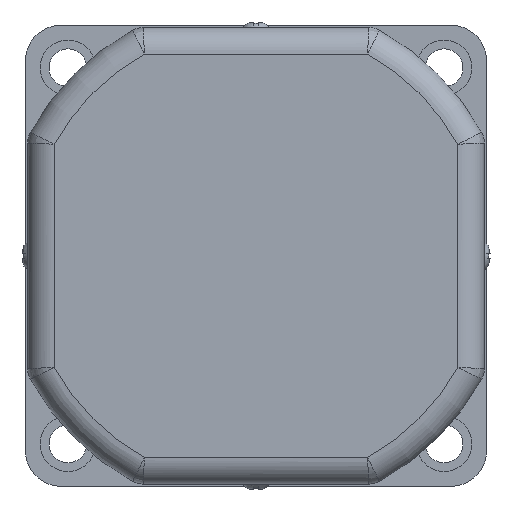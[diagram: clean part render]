
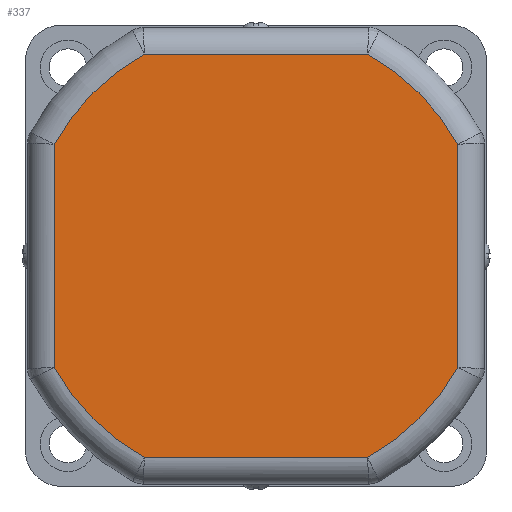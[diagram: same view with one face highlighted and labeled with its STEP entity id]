
A CAD part, left-side view. The second image highlights one B-rep face of the part: STEP entity #337.
In plain terms, the highlighted planar face has unit normal (-1, 0, 0).
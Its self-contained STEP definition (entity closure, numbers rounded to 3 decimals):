
#262=CARTESIAN_POINT('',(-20.,0.,0.));
#263=DIRECTION('',(-1.0,0.0,0.0));
#264=DIRECTION('',(0.0,0.0,1.0));
#265=AXIS2_PLACEMENT_3D('',#262,#263,#264);
#266=PLANE('',#265);
#267=CARTESIAN_POINT('',(-20.,25.174,45.5));
#268=VERTEX_POINT('',#267);
#269=CARTESIAN_POINT('',(-20.,-25.174,45.5));
#270=VERTEX_POINT('',#269);
#271=CARTESIAN_POINT('',(-20.,25.174,45.5));
#272=DIRECTION('',(0.0,-1.0,0.0));
#273=VECTOR('',#272,50.349);
#274=LINE('',#271,#273);
#275=EDGE_CURVE('',#268,#270,#274,.T.);
#276=ORIENTED_EDGE('',*,*,#275,.F.);
#277=CARTESIAN_POINT('',(-20.,45.5,25.174));
#278=VERTEX_POINT('',#277);
#279=CARTESIAN_POINT('',(-20.,0.,0.));
#280=DIRECTION('',(1.0,0.0,0.0));
#281=DIRECTION('',(0.0,0.707,0.707));
#282=AXIS2_PLACEMENT_3D('',#279,#280,#281);
#283=CIRCLE('',#282,52.);
#284=EDGE_CURVE('',#278,#268,#283,.T.);
#285=ORIENTED_EDGE('',*,*,#284,.F.);
#286=CARTESIAN_POINT('',(-20.,45.5,-25.174));
#287=VERTEX_POINT('',#286);
#288=CARTESIAN_POINT('',(-20.,45.5,-25.174));
#289=DIRECTION('',(0.0,0.0,1.0));
#290=VECTOR('',#289,50.349);
#291=LINE('',#288,#290);
#292=EDGE_CURVE('',#287,#278,#291,.T.);
#293=ORIENTED_EDGE('',*,*,#292,.F.);
#294=CARTESIAN_POINT('',(-20.,25.174,-45.5));
#295=VERTEX_POINT('',#294);
#296=CARTESIAN_POINT('',(-20.,0.,0.));
#297=DIRECTION('',(1.0,0.0,0.0));
#298=DIRECTION('',(0.0,0.707,-0.707));
#299=AXIS2_PLACEMENT_3D('',#296,#297,#298);
#300=CIRCLE('',#299,52.);
#301=EDGE_CURVE('',#295,#287,#300,.T.);
#302=ORIENTED_EDGE('',*,*,#301,.F.);
#303=CARTESIAN_POINT('',(-20.,-25.174,-45.5));
#304=VERTEX_POINT('',#303);
#305=CARTESIAN_POINT('',(-20.,-25.174,-45.5));
#306=DIRECTION('',(0.0,1.0,0.0));
#307=VECTOR('',#306,50.349);
#308=LINE('',#305,#307);
#309=EDGE_CURVE('',#304,#295,#308,.T.);
#310=ORIENTED_EDGE('',*,*,#309,.F.);
#311=CARTESIAN_POINT('',(-20.,-45.5,-25.174));
#312=VERTEX_POINT('',#311);
#313=CARTESIAN_POINT('',(-20.,0.,0.));
#314=DIRECTION('',(1.0,0.0,0.0));
#315=DIRECTION('',(0.0,-0.707,-0.707));
#316=AXIS2_PLACEMENT_3D('',#313,#314,#315);
#317=CIRCLE('',#316,52.);
#318=EDGE_CURVE('',#312,#304,#317,.T.);
#319=ORIENTED_EDGE('',*,*,#318,.F.);
#320=CARTESIAN_POINT('',(-20.,-45.5,25.174));
#321=VERTEX_POINT('',#320);
#322=CARTESIAN_POINT('',(-20.,-45.5,25.174));
#323=DIRECTION('',(0.0,0.0,-1.0));
#324=VECTOR('',#323,50.349);
#325=LINE('',#322,#324);
#326=EDGE_CURVE('',#321,#312,#325,.T.);
#327=ORIENTED_EDGE('',*,*,#326,.F.);
#328=CARTESIAN_POINT('',(-20.,0.,0.));
#329=DIRECTION('',(1.0,0.0,0.0));
#330=DIRECTION('',(0.0,-0.707,0.707));
#331=AXIS2_PLACEMENT_3D('',#328,#329,#330);
#332=CIRCLE('',#331,52.);
#333=EDGE_CURVE('',#270,#321,#332,.T.);
#334=ORIENTED_EDGE('',*,*,#333,.F.);
#335=EDGE_LOOP('',(#276,#285,#293,#302,#310,#319,#327,#334));
#336=FACE_OUTER_BOUND('',#335,.T.);
#337=ADVANCED_FACE('',(#336),#266,.T.);
